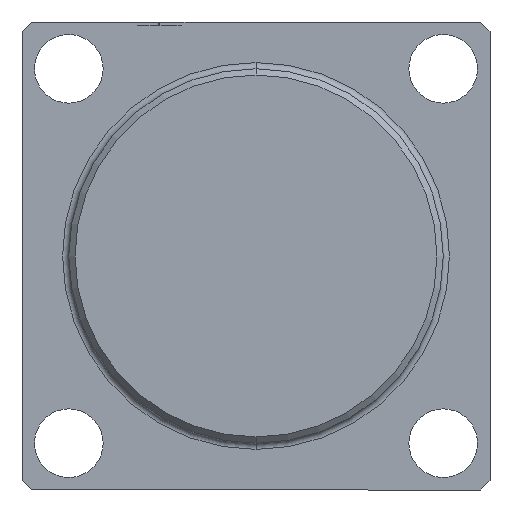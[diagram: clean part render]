
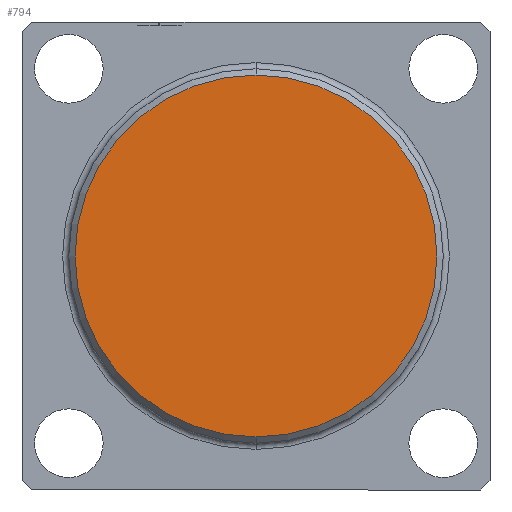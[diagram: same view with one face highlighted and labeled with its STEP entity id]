
A CAD part, front view. The second image highlights one B-rep face of the part: STEP entity #794.
In plain terms, the highlighted planar face has unit normal (0, -1, 0).
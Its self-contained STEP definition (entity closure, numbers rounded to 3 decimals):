
#34 = DIRECTION ( 'NONE',  ( 0., -1., 0. ) ) ;
#94 = FACE_OUTER_BOUND ( 'NONE', #3091, .T. ) ;
#95 = AXIS2_PLACEMENT_3D ( 'NONE', #2777, #1153, #3039 ) ;
#365 = CARTESIAN_POINT ( 'NONE',  ( 0., -84., 0. ) ) ;
#627 = DIRECTION ( 'NONE',  ( 0., 0., -1. ) ) ;
#779 = AXIS2_PLACEMENT_3D ( 'NONE', #834, #34, #1932 ) ;
#794 = ADVANCED_FACE ( 'NONE', ( #94 ), #2184, .T. ) ;
#834 = CARTESIAN_POINT ( 'NONE',  ( 0., -84., 0. ) ) ;
#910 = EDGE_CURVE ( 'NONE', #1902, #1958, #1846, .T. ) ;
#1153 = DIRECTION ( 'NONE',  ( 0., -1., 0. ) ) ;
#1331 = CARTESIAN_POINT ( 'NONE',  ( 0., -84., 29. ) ) ;
#1554 = EDGE_CURVE ( 'NONE', #1958, #1902, #3451, .T. ) ;
#1611 = CARTESIAN_POINT ( 'NONE',  ( 0., -84., -29. ) ) ;
#1846 = CIRCLE ( 'NONE', #2429, 29. ) ;
#1902 = VERTEX_POINT ( 'NONE', #1331 ) ;
#1932 = DIRECTION ( 'NONE',  ( 0., 0., -1. ) ) ;
#1958 = VERTEX_POINT ( 'NONE', #1611 ) ;
#2100 = ORIENTED_EDGE ( 'NONE', *, *, #910, .T. ) ;
#2184 = PLANE ( 'NONE',  #779 ) ;
#2262 = DIRECTION ( 'NONE',  ( 0., -1., 0. ) ) ;
#2429 = AXIS2_PLACEMENT_3D ( 'NONE', #365, #2262, #627 ) ;
#2532 = ORIENTED_EDGE ( 'NONE', *, *, #1554, .T. ) ;
#2777 = CARTESIAN_POINT ( 'NONE',  ( 0., -84., 0. ) ) ;
#3039 = DIRECTION ( 'NONE',  ( 0., 0., -1. ) ) ;
#3091 = EDGE_LOOP ( 'NONE', ( #2100, #2532 ) ) ;
#3451 = CIRCLE ( 'NONE', #95, 29. ) ;
